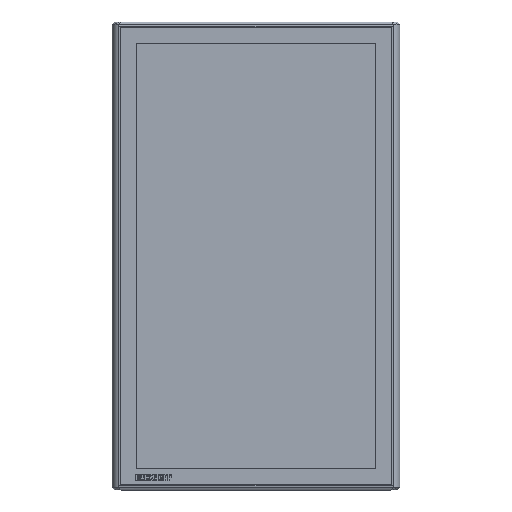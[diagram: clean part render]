
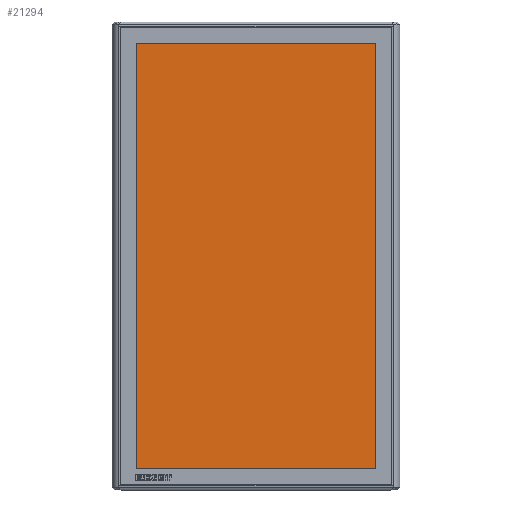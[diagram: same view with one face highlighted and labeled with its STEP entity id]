
A CAD part, top view. The second image highlights one B-rep face of the part: STEP entity #21294.
In plain terms, the highlighted planar face has unit normal (0, 0, 1).
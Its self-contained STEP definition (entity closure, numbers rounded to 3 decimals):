
#892=LINE('',#30283,#2753);
#893=LINE('',#30285,#2754);
#894=LINE('',#30287,#2755);
#895=LINE('',#30288,#2756);
#2753=VECTOR('',#24655,10.);
#2754=VECTOR('',#24656,10.);
#2755=VECTOR('',#24657,10.);
#2756=VECTOR('',#24658,10.);
#5053=FACE_OUTER_BOUND('',#6252,.T.);
#6252=EDGE_LOOP('',(#13802,#13803,#13804,#13805));
#8382=VERTEX_POINT('',#30281);
#8383=VERTEX_POINT('',#30282);
#8384=VERTEX_POINT('',#30284);
#8385=VERTEX_POINT('',#30286);
#10482=EDGE_CURVE('',#8382,#8383,#892,.T.);
#10483=EDGE_CURVE('',#8383,#8384,#893,.T.);
#10484=EDGE_CURVE('',#8384,#8385,#894,.T.);
#10485=EDGE_CURVE('',#8385,#8382,#895,.T.);
#13802=ORIENTED_EDGE('',*,*,#10482,.T.);
#13803=ORIENTED_EDGE('',*,*,#10483,.T.);
#13804=ORIENTED_EDGE('',*,*,#10484,.T.);
#13805=ORIENTED_EDGE('',*,*,#10485,.T.);
#19406=PLANE('',#22645);
#21294=ADVANCED_FACE('',(#5053),#19406,.T.);
#22645=AXIS2_PLACEMENT_3D('',#30280,#24653,#24654);
#24653=DIRECTION('center_axis',(0.,0.,
1.));
#24654=DIRECTION('ref_axis',(0.,-1.,0.));
#24655=DIRECTION('',(1.,0.,0.));
#24656=DIRECTION('',(0.,1.,0.));
#24657=DIRECTION('',(-1.,0.,0.));
#24658=DIRECTION('',(0.,-1.,0.));
#30280=CARTESIAN_POINT('Origin',(0.,-0.002,
13.8));
#30281=CARTESIAN_POINT('',(-149.9,-266.102,13.8));
#30282=CARTESIAN_POINT('',(149.9,-266.102,13.8));
#30283=CARTESIAN_POINT('',(74.95,-266.102,13.8));
#30284=CARTESIAN_POINT('',(149.9,266.098,13.8));
#30285=CARTESIAN_POINT('',(149.9,133.048,13.8));
#30286=CARTESIAN_POINT('',(-149.9,266.098,13.8));
#30287=CARTESIAN_POINT('',(-74.95,266.098,13.8));
#30288=CARTESIAN_POINT('',(-149.9,-133.052,13.8));
